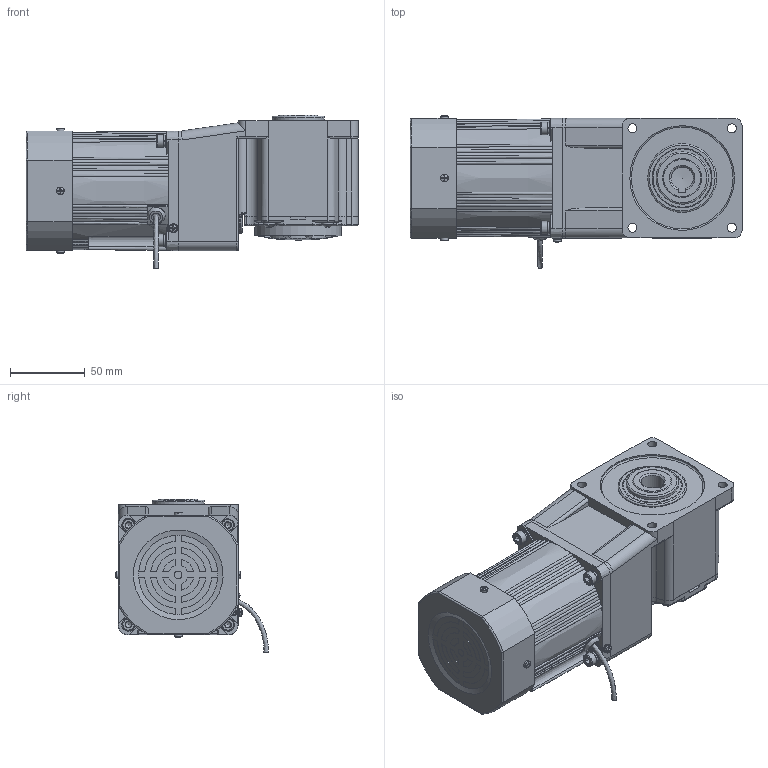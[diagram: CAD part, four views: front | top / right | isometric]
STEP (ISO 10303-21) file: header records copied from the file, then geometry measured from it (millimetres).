
FILE_DESCRIPTION(/* description */ (''),/* implementation_level */ '2;1');
FILE_NAME(/* name */ '80+中空直角-风叶-25-40W 新版.stp',/* time_stamp */ '2025-03-24T15:12:32+08:00',/* author */ (''),/* organization */ (''),/* preprocessor_version */ 'ST-DEVELOPER v18.102',/* originating_system */ 'SIEMENS PLM Software NX 2027',/* authorisation */ '');
FILE_SCHEMA (('AP203_CONFIGURATION_CONTROLLED_3D_DESIGN_OF_MECHANICAL_PARTS_AND_ASSEMBLIES_MIM_LF { 1 0 10303 403 2 1 2}'));
Length unit declared in the file: millimetre
Products named in the file (1): 4RK25-30CC·F-4GN3-20K-C·10L_stp_M066312CCEA1lq0b
Bounding box: 222 x 102.23 x 102.56 mm (x, y, z)
Volume: 1202847.5 mm3; surface area: 131383.3 mm2
Topology: 17 solids, 17 shells, 1110 faces, 2778 edges, 1741 vertices
Faces by surface type: plane 459, cylinder 288, bspline 158, cone 93, torus 84, sphere 22, revolution 6
Full cylindrical faces by diameter (mm): 2.5 x2, 2.6 x1, 3.2 x1, 3.5 x2, 4.2 x4, 4.4 x1, 4.826 x4, 5 x10, 5.1 x5, 5.3 x4, 5.849 x1, 6 x10, 8 x4, 8.5 x4, 9 x4, 10.5 x1, 12 x1, 19 x1, 25 x1, 26 x3, 35 x1, 40 x2, 40.5 x1, 46 x1, 52 x1, 52.5 x1, 56 x1, 58 x1, 67 x1, 70 x1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
Entity records: 38377 total; most frequent: CARTESIAN_POINT 14236, ORIENTED_EDGE 5082, DIRECTION 4379, EDGE_CURVE 2541, AXIS2_PLACEMENT_3D 1745, VERTEX_POINT 1665, EDGE_LOOP 1394, ADVANCED_FACE 1108
